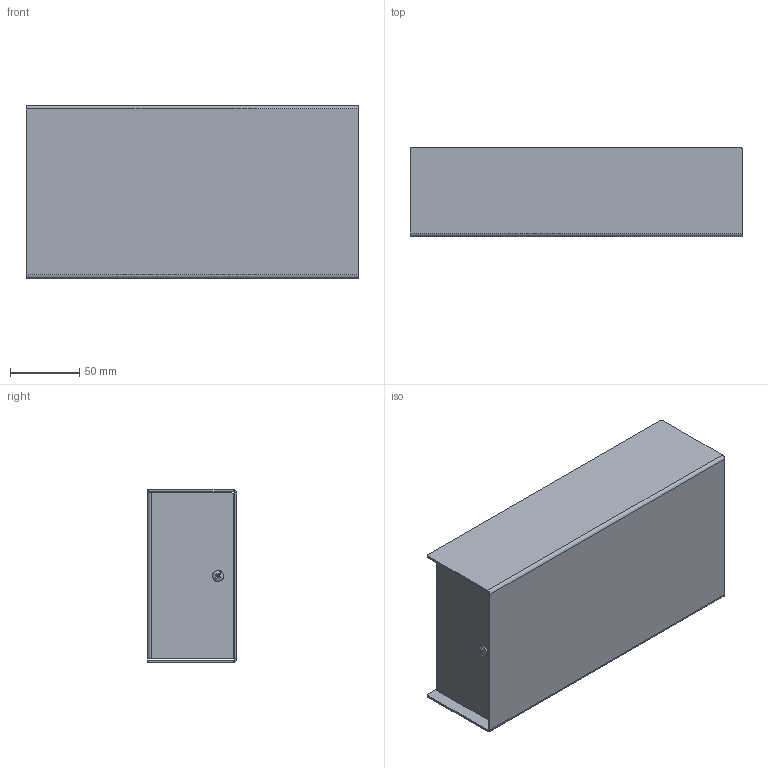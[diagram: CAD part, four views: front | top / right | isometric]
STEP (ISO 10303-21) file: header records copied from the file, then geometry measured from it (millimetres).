
FILE_DESCRIPTION (( 'STEP AP203' ), '1' );
FILE_NAME ('ACCANOPYRE001XX.STEP', '2023-09-14T07:42:45', ( '' ), ( '' ), 'SwSTEP 2.0', 'SolidWorks 2023', '' );
FILE_SCHEMA (( 'CONFIG_CONTROL_DESIGN' ));
Length unit declared in the file: millimetre
Products named in the file (1): ACCANOPYRE001XX
Bounding box: 240 x 64.5 x 125 mm (x, y, z)
Volume: 173029.1 mm3; surface area: 208052.7 mm2
Topology: 9 solids, 9 shells, 310 faces, 835 edges, 498 vertices
Faces by surface type: plane 163, cylinder 69, bspline 44, cone 22, torus 8, sphere 4
Entity records: 10236 total; most frequent: CARTESIAN_POINT 2744, ORIENTED_EDGE 1574, DIRECTION 1489, EDGE_CURVE 787, AXIS2_PLACEMENT_3D 539, VERTEX_POINT 498, LINE 411, VECTOR 411
